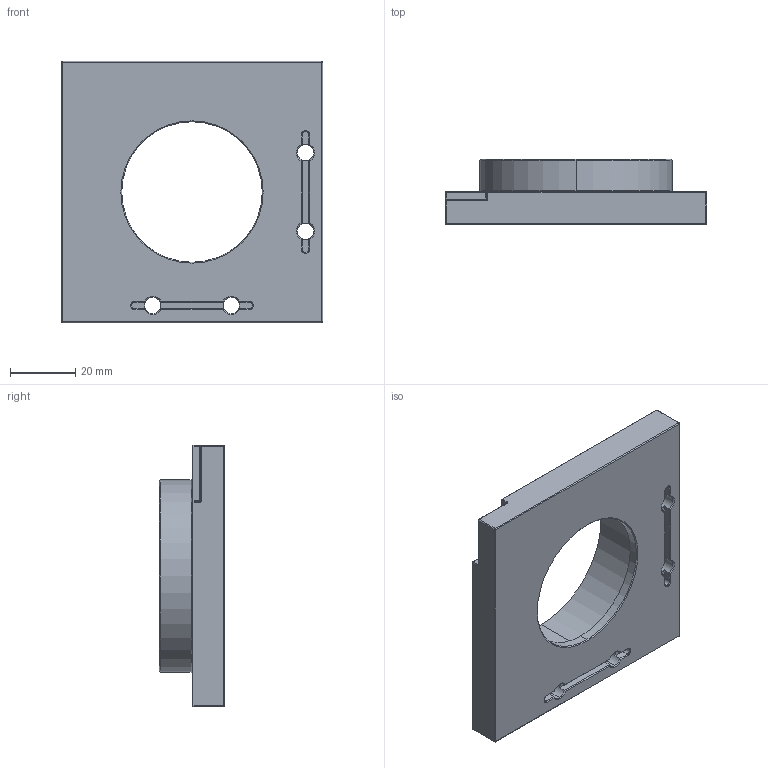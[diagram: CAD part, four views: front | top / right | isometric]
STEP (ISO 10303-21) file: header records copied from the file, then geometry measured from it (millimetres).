
FILE_DESCRIPTION (( 'STEP AP203' ), '1' );
FILE_NAME ('2怢醱.STEP', '2024-05-31T01:09:23', ( '' ), ( '' ), 'SwSTEP 2.0', 'SolidWorks 2024', '' );
FILE_SCHEMA (( 'CONFIG_CONTROL_DESIGN' ));
Length unit declared in the file: millimetre
Products named in the file (1): 2台面
Bounding box: 80 x 20 x 80 mm (x, y, z)
Volume: 49861.6 mm3; surface area: 18659.1 mm2
Topology: 1 solids, 1 shells, 161 faces, 386 edges, 218 vertices
Faces by surface type: plane 59, cylinder 48, cone 39, sphere 12, torus 3
Entity records: 4615 total; most frequent: DIRECTION 828, CARTESIAN_POINT 822, ORIENTED_EDGE 744, EDGE_CURVE 372, AXIS2_PLACEMENT_3D 318, VERTEX_POINT 216, LINE 192, VECTOR 192
